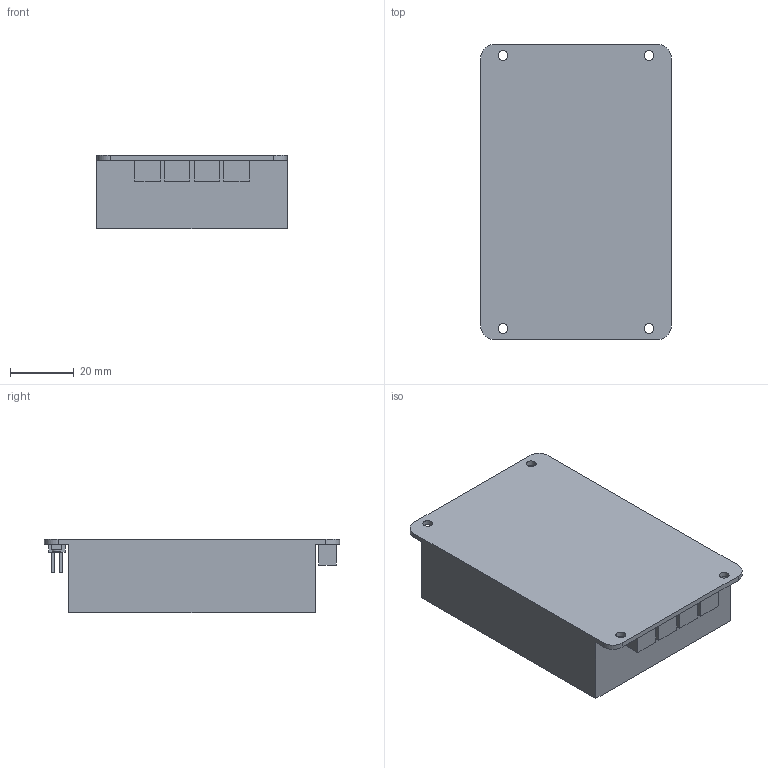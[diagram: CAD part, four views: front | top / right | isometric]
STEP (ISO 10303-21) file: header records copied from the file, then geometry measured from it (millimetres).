
FILE_DESCRIPTION(/* description */ (''),/* implementation_level */ '2;1');
FILE_NAME(/* name */ 'UPS_Module_3S.step',/* time_stamp */ '2022-12-12T17:34:33+08:00',/* author */ (''),/* organization */ (''),/* preprocessor_version */ 'ST-DEVELOPER v19.2',/* originating_system */ 'Autodesk Translation Framework v11.17.0.187',/* authorisation */ '');
FILE_SCHEMA (('AUTOMOTIVE_DESIGN { 1 0 10303 214 3 1 1 }'));
Length unit declared in the file: millimetre
Products named in the file (2): ups电源模块 v3; 12V UPS
Assembly tree (1 placements, depth 2):
  ups电源模块 v3
    12V UPS
Bounding box: 60 x 93 x 23.1 mm (x, y, z)
Volume: 110587.2 mm3; surface area: 18553.4 mm2
Topology: 1 solids, 1 shells, 98 faces, 243 edges, 162 vertices
Faces by surface type: plane 89, cylinder 9
Full cylindrical faces by diameter (mm): 2.5 x1, 3.1 x4
Entity records: 2934 total; most frequent: CARTESIAN_POINT 506, ORIENTED_EDGE 486, DIRECTION 463, EDGE_CURVE 243, LINE 225, VECTOR 225, VERTEX_POINT 162, EDGE_LOOP 121
